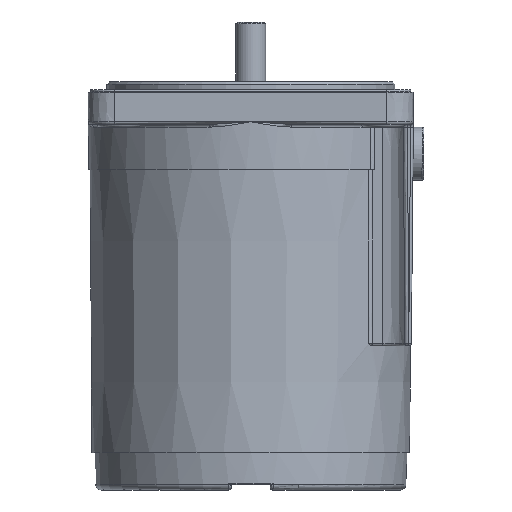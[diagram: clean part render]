
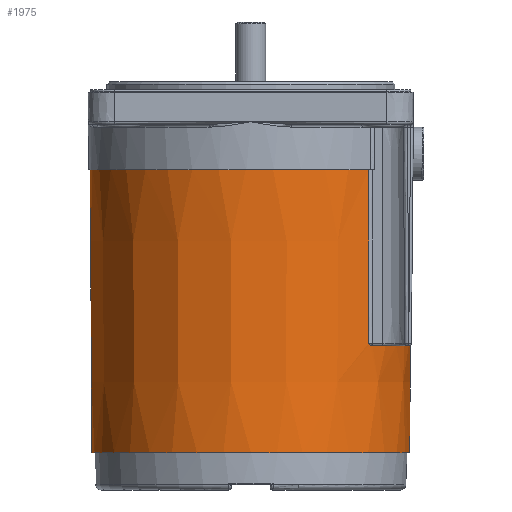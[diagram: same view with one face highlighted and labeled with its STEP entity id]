
A CAD part, left-side view. The second image highlights one B-rep face of the part: STEP entity #1975.
In plain terms, the highlighted conical face has half-angle 0.318 degrees and reference radius 30.123 mm.
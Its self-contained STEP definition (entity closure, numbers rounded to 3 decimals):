
#52 = DIRECTION ( 'NONE',  ( 0., 0., 1. ) ) ;
#180 = CARTESIAN_POINT ( 'NONE',  ( -19.391, -22.812, -47.5 ) ) ;
#263 = CARTESIAN_POINT ( 'NONE',  ( -20.429, -22.08, -22.167 ) ) ;
#283 = CARTESIAN_POINT ( 'NONE',  ( -20.216, -22.088, -47.003 ) ) ;
#284 = EDGE_CURVE ( 'NONE', #4359, #4359, #5657, .T. ) ;
#418 = CARTESIAN_POINT ( 'NONE',  ( -20.216, -22.088, -47.003 ) ) ;
#641 = CARTESIAN_POINT ( 'NONE',  ( 20.477, -22.078, -16.5 ) ) ;
#652 = CIRCLE ( 'NONE', #5625, 30.123 ) ;
#656 = EDGE_CURVE ( 'NONE', #9196, #1963, #8197, .T. ) ;
#902 = B_SPLINE_CURVE_WITH_KNOTS ( 'NONE', 3,
 ( #2652, #5607, #1792, #7916, #5703, #3452, #2443, #8568, #4762, #7811 ),
 .UNSPECIFIED., .F., .F.,
 ( 4, 2, 2, 2, 4 ),
 ( 0., 0.002, 0.005, 0.007, 0.009 ),
 .UNSPECIFIED. ) ;
#1025 = CARTESIAN_POINT ( 'NONE',  ( 20.216, -22.088, -47.003 ) ) ;
#1043 = CARTESIAN_POINT ( 'NONE',  ( -19.969, -22.311, -47.241 ) ) ;
#1483 = CARTESIAN_POINT ( 'NONE',  ( 20.409, -22.081, -24.5 ) ) ;
#1693 = CARTESIAN_POINT ( 'NONE',  ( 0., 0., -67.5 ) ) ;
#1774 = CARTESIAN_POINT ( 'NONE',  ( -20.224, -22.088, -46.001 ) ) ;
#1792 = CARTESIAN_POINT ( 'NONE',  ( 3.05, -29.794, -47.461 ) ) ;
#1963 = VERTEX_POINT ( 'NONE', #4640 ) ;
#1975 = ADVANCED_FACE ( 'NONE', ( #5481, #6930 ), #2329, .T. ) ;
#2015 = VERTEX_POINT ( 'NONE', #5781 ) ;
#2066 = CARTESIAN_POINT ( 'NONE',  ( 20.216, -22.088, -47.003 ) ) ;
#2297 = DIRECTION ( 'NONE',  ( -1., 0., 0. ) ) ;
#2329 = CONICAL_SURFACE ( 'NONE', #9580, 30.123, 0.006 ) ;
#2352 = DIRECTION ( 'NONE',  ( 0., 0., -1. ) ) ;
#2398 = DIRECTION ( 'NONE',  ( 0., 0., -1. ) ) ;
#2443 = CARTESIAN_POINT ( 'NONE',  ( -1.529, -29.911, -47.389 ) ) ;
#2590 = CARTESIAN_POINT ( 'NONE',  ( -20.22, -22.088, -46.502 ) ) ;
#2610 = EDGE_CURVE ( 'NONE', #2015, #6081, #5528, .T. ) ;
#2639 = CARTESIAN_POINT ( 'NONE',  ( -20.494, -22.077, -14.5 ) ) ;
#2652 = CARTESIAN_POINT ( 'NONE',  ( 4.567, -29.59, -47.5 ) ) ;
#2797 = B_SPLINE_CURVE_WITH_KNOTS ( 'NONE', 3,
 ( #180, #4069, #7105, #1043, #4121, #283 ),
 .UNSPECIFIED., .F., .F.,
 ( 4, 2, 4 ),
 ( 0., 0.001, 0.001 ),
 .UNSPECIFIED. ) ;
#2837 = EDGE_LOOP ( 'NONE', ( #7268, #8236, #3820, #9045, #9270, #7134, #7636, #8122 ) ) ;
#2869 = VERTEX_POINT ( 'NONE', #6228 ) ;
#3016 = CARTESIAN_POINT ( 'NONE',  ( 0., 0., -47.5 ) ) ;
#3346 = CARTESIAN_POINT ( 'NONE',  ( 19.699, -22.548, -47.429 ) ) ;
#3399 = CARTESIAN_POINT ( 'NONE',  ( 20.093, -22.2, -47.122 ) ) ;
#3449 = CARTESIAN_POINT ( 'NONE',  ( -29.829, 0., -67.5 ) ) ;
#3452 = CARTESIAN_POINT ( 'NONE',  ( -0.764, -29.941, -47.356 ) ) ;
#3547 = EDGE_LOOP ( 'NONE', ( #8505 ) ) ;
#3574 = VERTEX_POINT ( 'NONE', #9142 ) ;
#3820 = ORIENTED_EDGE ( 'NONE', *, *, #9403, .T. ) ;
#3862 = CARTESIAN_POINT ( 'NONE',  ( 0., 0., -47.5 ) ) ;
#3919 = DIRECTION ( 'NONE',  ( -1., 0., 0. ) ) ;
#4017 = DIRECTION ( 'NONE',  ( -1., 0., 0. ) ) ;
#4069 = CARTESIAN_POINT ( 'NONE',  ( -19.549, -22.678, -47.5 ) ) ;
#4101 = CARTESIAN_POINT ( 'NONE',  ( -20.274, -22.086, -40.167 ) ) ;
#4121 = CARTESIAN_POINT ( 'NONE',  ( -20.093, -22.2, -47.122 ) ) ;
#4359 = VERTEX_POINT ( 'NONE', #3449 ) ;
#4430 = DIRECTION ( 'NONE',  ( 0., 0., -1. ) ) ;
#4517 = CARTESIAN_POINT ( 'NONE',  ( 20.494, -22.077, -14.5 ) ) ;
#4610 = CARTESIAN_POINT ( 'NONE',  ( 20.28, -22.086, -39.502 ) ) ;
#4640 = CARTESIAN_POINT ( 'NONE',  ( 19.391, -22.812, -47.5 ) ) ;
#4762 = CARTESIAN_POINT ( 'NONE',  ( -3.809, -29.707, -47.5 ) ) ;
#4804 = CARTESIAN_POINT ( 'NONE',  ( 19.549, -22.678, -47.5 ) ) ;
#4849 = CARTESIAN_POINT ( 'NONE',  ( -20.251, -22.087, -42.834 ) ) ;
#4894 = CARTESIAN_POINT ( 'NONE',  ( -20.363, -22.083, -29.834 ) ) ;
#5338 = AXIS2_PLACEMENT_3D ( 'NONE', #1693, #7815, #2297 ) ;
#5481 = FACE_BOUND ( 'NONE', #3547, .T. ) ;
#5528 = CIRCLE ( 'NONE', #8755, 29.94 ) ;
#5607 = CARTESIAN_POINT ( 'NONE',  ( 3.81, -29.707, -47.5 ) ) ;
#5625 = AXIS2_PLACEMENT_3D ( 'NONE', #5737, #4430, #7949 ) ;
#5657 = CIRCLE ( 'NONE', #5338, 29.829 ) ;
#5703 = CARTESIAN_POINT ( 'NONE',  ( 0.766, -29.941, -47.356 ) ) ;
#5737 = CARTESIAN_POINT ( 'NONE',  ( 0., 0., -14.5 ) ) ;
#5781 = CARTESIAN_POINT ( 'NONE',  ( -4.567, -29.59, -47.5 ) ) ;
#5786 = AXIS2_PLACEMENT_3D ( 'NONE', #3016, #2352, #3919 ) ;
#5880 = CARTESIAN_POINT ( 'NONE',  ( -19.391, -22.812, -47.5 ) ) ;
#5998 = CARTESIAN_POINT ( 'NONE',  ( 20.344, -22.084, -32.001 ) ) ;
#6081 = VERTEX_POINT ( 'NONE', #5880 ) ;
#6146 = CARTESIAN_POINT ( 'NONE',  ( 20.489, -22.078, -15.167 ) ) ;
#6180 = DIRECTION ( 'NONE',  ( 1., 0., 0. ) ) ;
#6228 = CARTESIAN_POINT ( 'NONE',  ( 20.494, -22.077, -14.5 ) ) ;
#6350 = VERTEX_POINT ( 'NONE', #6914 ) ;
#6538 = CARTESIAN_POINT ( 'NONE',  ( -20.229, -22.088, -45.5 ) ) ;
#6633 = CARTESIAN_POINT ( 'NONE',  ( -20.216, -22.088, -47.003 ) ) ;
#6794 = EDGE_CURVE ( 'NONE', #2869, #9196, #9527, .T. ) ;
#6914 = CARTESIAN_POINT ( 'NONE',  ( -20.494, -22.077, -14.5 ) ) ;
#6930 = FACE_OUTER_BOUND ( 'NONE', #2837, .T. ) ;
#7105 = CARTESIAN_POINT ( 'NONE',  ( -19.699, -22.548, -47.429 ) ) ;
#7134 = ORIENTED_EDGE ( 'NONE', *, *, #9068, .T. ) ;
#7140 = CARTESIAN_POINT ( 'NONE',  ( -20.297, -22.085, -37.5 ) ) ;
#7268 = ORIENTED_EDGE ( 'NONE', *, *, #6794, .T. ) ;
#7636 = ORIENTED_EDGE ( 'NONE', *, *, #9273, .T. ) ;
#7711 = CIRCLE ( 'NONE', #5786, 29.94 ) ;
#7811 = CARTESIAN_POINT ( 'NONE',  ( -4.567, -29.59, -47.5 ) ) ;
#7815 = DIRECTION ( 'NONE',  ( 0., 0., -1. ) ) ;
#7898 = EDGE_CURVE ( 'NONE', #3574, #2015, #902, .T. ) ;
#7916 = CARTESIAN_POINT ( 'NONE',  ( 1.529, -29.911, -47.389 ) ) ;
#7942 = B_SPLINE_CURVE_WITH_KNOTS ( 'NONE', 3,
 ( #418, #2590, #1774, #6538, #4849, #4101, #7140, #4894, #263, #2639 ),
 .UNSPECIFIED., .F., .F.,
 ( 4, 3, 3, 4 ),
 ( 0., 0.002, 0.01, 0.033 ),
 .UNSPECIFIED. ) ;
#7949 = DIRECTION ( 'NONE',  ( -1., 0., 0. ) ) ;
#8122 = ORIENTED_EDGE ( 'NONE', *, *, #9195, .T. ) ;
#8197 = B_SPLINE_CURVE_WITH_KNOTS ( 'NONE', 3,
 ( #2066, #3399, #9535, #3346, #4804, #9717 ),
 .UNSPECIFIED., .F., .F.,
 ( 4, 2, 4 ),
 ( 0., 0.001, 0.001 ),
 .UNSPECIFIED. ) ;
#8236 = ORIENTED_EDGE ( 'NONE', *, *, #656, .T. ) ;
#8400 = VERTEX_POINT ( 'NONE', #6633 ) ;
#8411 = CARTESIAN_POINT ( 'NONE',  ( 20.431, -22.08, -21.833 ) ) ;
#8501 = CARTESIAN_POINT ( 'NONE',  ( 0., 0., -14.5 ) ) ;
#8505 = ORIENTED_EDGE ( 'NONE', *, *, #284, .F. ) ;
#8568 = CARTESIAN_POINT ( 'NONE',  ( -3.051, -29.794, -47.461 ) ) ;
#8755 = AXIS2_PLACEMENT_3D ( 'NONE', #3862, #2398, #4017 ) ;
#9045 = ORIENTED_EDGE ( 'NONE', *, *, #7898, .T. ) ;
#9068 = EDGE_CURVE ( 'NONE', #6081, #8400, #2797, .T. ) ;
#9142 = CARTESIAN_POINT ( 'NONE',  ( 4.567, -29.59, -47.5 ) ) ;
#9185 = CARTESIAN_POINT ( 'NONE',  ( 20.216, -22.088, -47.003 ) ) ;
#9195 = EDGE_CURVE ( 'NONE', #6350, #2869, #652, .T. ) ;
#9196 = VERTEX_POINT ( 'NONE', #1025 ) ;
#9270 = ORIENTED_EDGE ( 'NONE', *, *, #2610, .T. ) ;
#9273 = EDGE_CURVE ( 'NONE', #8400, #6350, #7942, .T. ) ;
#9281 = CARTESIAN_POINT ( 'NONE',  ( 20.483, -22.078, -15.833 ) ) ;
#9403 = EDGE_CURVE ( 'NONE', #1963, #3574, #7711, .T. ) ;
#9527 = B_SPLINE_CURVE_WITH_KNOTS ( 'NONE', 3,
 ( #4517, #6146, #9281, #641, #9898, #8411, #1483, #5998, #4610, #9185 ),
 .UNSPECIFIED., .F., .F.,
 ( 4, 3, 3, 4 ),
 ( 0., 0.002, 0.01, 0.033 ),
 .UNSPECIFIED. ) ;
#9535 = CARTESIAN_POINT ( 'NONE',  ( 19.969, -22.311, -47.241 ) ) ;
#9580 = AXIS2_PLACEMENT_3D ( 'NONE', #8501, #52, #6180 ) ;
#9717 = CARTESIAN_POINT ( 'NONE',  ( 19.391, -22.812, -47.5 ) ) ;
#9898 = CARTESIAN_POINT ( 'NONE',  ( 20.454, -22.079, -19.166 ) ) ;
